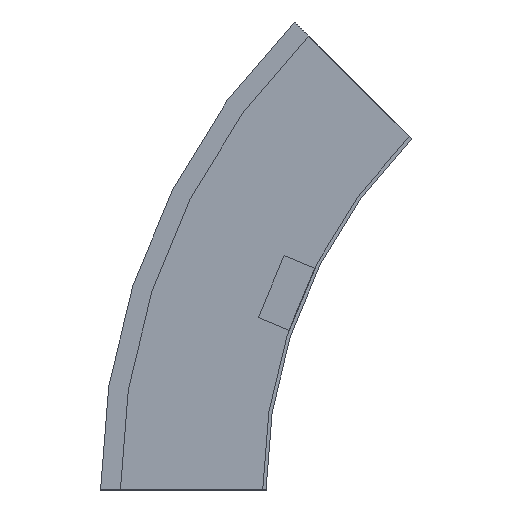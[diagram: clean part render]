
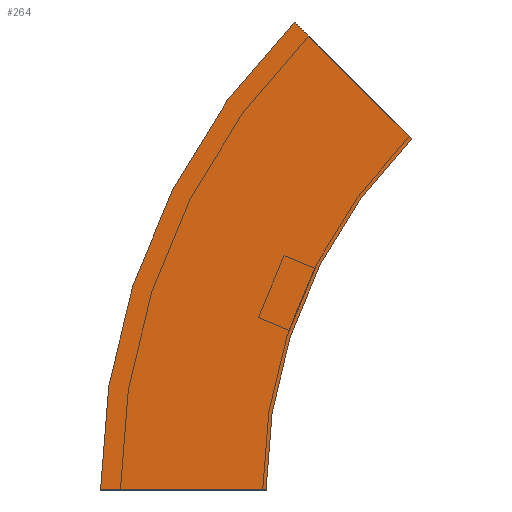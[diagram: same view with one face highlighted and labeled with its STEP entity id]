
A CAD part, left-side view. The second image highlights one B-rep face of the part: STEP entity #264.
In plain terms, the highlighted planar face has unit normal (-1, 0, 0) as drawn and (1, 0, 0) by its records, which use the part's own axes.
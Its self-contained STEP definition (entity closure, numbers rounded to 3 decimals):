
#35 = CARTESIAN_POINT ( 'NONE',  ( 0., -300., 0. ) ) ;
#50 = CARTESIAN_POINT ( 'NONE',  ( 0., 100., 0. ) ) ;
#58 = CARTESIAN_POINT ( 'NONE',  ( 0., -87.868, 212.132 ) ) ;
#80 = LINE ( 'NONE', #266, #206 ) ;
#86 = DIRECTION ( 'NONE',  ( 1., 0., 0. ) ) ;
#103 = EDGE_CURVE ( 'NONE', #260, #204, #80, .T. ) ;
#115 = EDGE_LOOP ( 'NONE', ( #235, #182, #349, #242 ) ) ;
#120 = CARTESIAN_POINT ( 'NONE',  ( 0., -87.868, 212.132 ) ) ;
#162 = VERTEX_POINT ( 'NONE', #207 ) ;
#168 = EDGE_CURVE ( 'NONE', #260, #269, #378, .T. ) ;
#170 = AXIS2_PLACEMENT_3D ( 'NONE', #328, #510, #505 ) ;
#182 = ORIENTED_EDGE ( 'NONE', *, *, #514, .F. ) ;
#204 = VERTEX_POINT ( 'NONE', #50 ) ;
#206 = VECTOR ( 'NONE', #425, 1000. ) ;
#207 = CARTESIAN_POINT ( 'NONE',  ( 0., -17.157, 282.843 ) ) ;
#235 = ORIENTED_EDGE ( 'NONE', *, *, #319, .T. ) ;
#236 = AXIS2_PLACEMENT_3D ( 'NONE', #35, #86, #278 ) ;
#242 = ORIENTED_EDGE ( 'NONE', *, *, #103, .T. ) ;
#260 = VERTEX_POINT ( 'NONE', #282 ) ;
#264 = ADVANCED_FACE ( 'NONE', ( #548 ), #553, .T. ) ;
#266 = CARTESIAN_POINT ( 'NONE',  ( 0., 0., 0. ) ) ;
#269 = VERTEX_POINT ( 'NONE', #58 ) ;
#278 = DIRECTION ( 'NONE',  ( 0., 1., 0. ) ) ;
#282 = CARTESIAN_POINT ( 'NONE',  ( 0., 0., 0. ) ) ;
#294 = DIRECTION ( 'NONE',  ( 0., 0.707, 0.707 ) ) ;
#319 = EDGE_CURVE ( 'NONE', #204, #162, #422, .T. ) ;
#328 = CARTESIAN_POINT ( 'NONE',  ( 0., 0., 0. ) ) ;
#349 = ORIENTED_EDGE ( 'NONE', *, *, #168, .F. ) ;
#353 = DIRECTION ( 'NONE',  ( 0., 1., 0. ) ) ;
#378 = CIRCLE ( 'NONE', #522, 300. ) ;
#389 = CARTESIAN_POINT ( 'NONE',  ( 0., -300., 0. ) ) ;
#422 = CIRCLE ( 'NONE', #236, 400. ) ;
#425 = DIRECTION ( 'NONE',  ( 0., 1., 0. ) ) ;
#429 = DIRECTION ( 'NONE',  ( 1., 0., 0. ) ) ;
#467 = VECTOR ( 'NONE', #294, 1000. ) ;
#505 = DIRECTION ( 'NONE',  ( 0., 0., -1. ) ) ;
#510 = DIRECTION ( 'NONE',  ( 1., 0., 0. ) ) ;
#514 = EDGE_CURVE ( 'NONE', #269, #162, #517, .T. ) ;
#517 = LINE ( 'NONE', #120, #467 ) ;
#522 = AXIS2_PLACEMENT_3D ( 'NONE', #389, #429, #353 ) ;
#548 = FACE_OUTER_BOUND ( 'NONE', #115, .T. ) ;
#553 = PLANE ( 'NONE',  #170 ) ;
